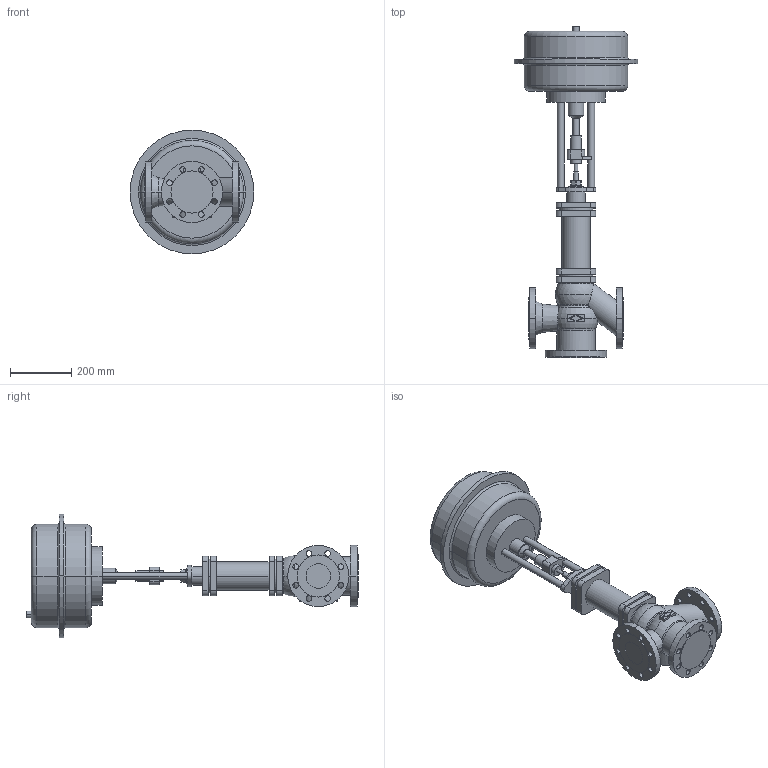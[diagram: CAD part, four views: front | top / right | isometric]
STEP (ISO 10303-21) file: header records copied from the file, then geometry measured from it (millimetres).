
FILE_DESCRIPTION(('OneSpaceDesigner STEP Export'),'2;1');
FILE_NAME('c000000763.stp','2006-09-21T 8:48:48',(''),(''),'OneSpace Designer STEP processor for AP214 (Solid Model)','OneSpace Designer 13.20A 18-Aug-2005 (C) CoCreate Software GmbH','');
FILE_SCHEMA(('AUTOMOTIVE_DESIGN { 1 0 10303 214 1 1 1 1 }'));
Length unit declared in the file: millimetre
Products named in the file (2): 1; 2
Bounding box: 405 x 1086.7 x 405 mm (x, y, z)
Volume: 28588576.6 mm3; surface area: 1082399.8 mm2
Topology: 2 solids, 2 shells, 265 faces, 666 edges, 435 vertices
Faces by surface type: cylinder 140, plane 92, torus 23, cone 6, sphere 4
Entity records: 7427 total; most frequent: CARTESIAN_POINT 1513, ORIENTED_EDGE 1324, DIRECTION 1084, EDGE_CURVE 662, VERTEX_POINT 435, AXIS2_PLACEMENT_3D 396, EDGE_LOOP 347, VECTOR 292
